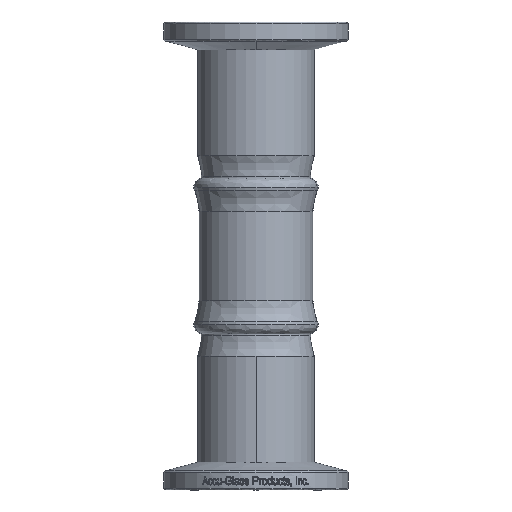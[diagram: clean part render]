
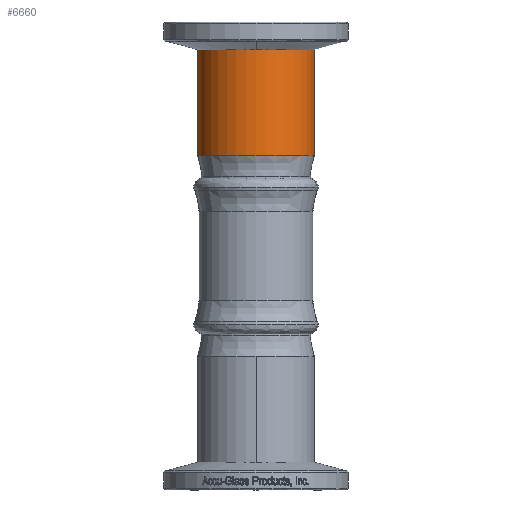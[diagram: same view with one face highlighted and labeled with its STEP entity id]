
A CAD part, front view. The second image highlights one B-rep face of the part: STEP entity #6660.
In plain terms, the highlighted cylindrical face has radius 9.525 mm (diameter 19.05 mm), a partial arc.
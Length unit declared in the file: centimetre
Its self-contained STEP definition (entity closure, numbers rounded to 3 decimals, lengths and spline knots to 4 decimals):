
#1824 = CIRCLE ( 'NONE', #14502, 0.9525 ) ;
#2332 = CARTESIAN_POINT ( 'NONE',  ( 0.9525, 0., -2.1793 ) ) ;
#2598 = CARTESIAN_POINT ( 'NONE',  ( 0., -0.9525, -0.4511 ) ) ;
#2642 = CARTESIAN_POINT ( 'NONE',  ( -0.9525, 0., -2.1793 ) ) ;
#3314 = EDGE_CURVE ( 'NONE', #11056, #42195, #38145, .T. ) ;
#3536 = EDGE_CURVE ( 'NONE', #42823, #11056, #45403, .T. ) ;
#3710 = EDGE_CURVE ( 'NONE', #9526, #42928, #45619, .T. ) ;
#5183 = CARTESIAN_POINT ( 'NONE',  ( 0., 0., -2.1793 ) ) ;
#5185 = DIRECTION ( 'NONE',  ( 0., 0., 1. ) ) ;
#5187 = DIRECTION ( 'NONE',  ( -1., 0., 0. ) ) ;
#6660 = ADVANCED_FACE ( 'NONE', ( #6992 ), #7007, .T. ) ;
#6992 = FACE_OUTER_BOUND ( 'NONE', #49945, .T. ) ;
#7007 = CYLINDRICAL_SURFACE ( 'NONE', #61217, 0.9525 ) ;
#9526 = VERTEX_POINT ( 'NONE', #28882 ) ;
#9541 = ORIENTED_EDGE ( 'NONE', *, *, #54141, .F. ) ;
#9629 = ORIENTED_EDGE ( 'NONE', *, *, #3536, .F. ) ;
#9955 = ORIENTED_EDGE ( 'NONE', *, *, #3710, .T. ) ;
#9967 = ORIENTED_EDGE ( 'NONE', *, *, #44783, .T. ) ;
#9985 = ORIENTED_EDGE ( 'NONE', *, *, #3314, .F. ) ;
#11056 = VERTEX_POINT ( 'NONE', #28985 ) ;
#14083 = AXIS2_PLACEMENT_3D ( 'NONE', #47571, #47572, #47574 ) ;
#14255 = AXIS2_PLACEMENT_3D ( 'NONE', #5183, #5185, #5187 ) ;
#14502 = AXIS2_PLACEMENT_3D ( 'NONE', #35552, #35553, #35554 ) ;
#15566 = DIRECTION ( 'NONE',  ( -1., 0., 0. ) ) ;
#15569 = DIRECTION ( 'NONE',  ( 0., 0., -1. ) ) ;
#15570 = CARTESIAN_POINT ( 'NONE',  ( 0., 0., -0.254 ) ) ;
#26339 = DIRECTION ( 'NONE',  ( 0., 0., -1. ) ) ;
#26562 = CARTESIAN_POINT ( 'NONE',  ( 0.9525, 0., -0.254 ) ) ;
#28882 = CARTESIAN_POINT ( 'NONE',  ( -0.9525, 0., -0.4511 ) ) ;
#28985 = CARTESIAN_POINT ( 'NONE',  ( 0.9525, 0., -0.4511 ) ) ;
#35552 = CARTESIAN_POINT ( 'NONE',  ( 0., 0., -0.4511 ) ) ;
#35553 = DIRECTION ( 'NONE',  ( 0., 0., 1. ) ) ;
#35554 = DIRECTION ( 'NONE',  ( 1., 0., 0. ) ) ;
#38139 = VECTOR ( 'NONE', #26339, 100. ) ;
#38145 = LINE ( 'NONE', #26562, #38139 ) ;
#42195 = VERTEX_POINT ( 'NONE', #2332 ) ;
#42823 = VERTEX_POINT ( 'NONE', #2598 ) ;
#42928 = VERTEX_POINT ( 'NONE', #2642 ) ;
#44783 = EDGE_CURVE ( 'NONE', #42928, #42195, #51855, .T. ) ;
#45403 = CIRCLE ( 'NONE', #14083, 0.9525 ) ;
#45437 = VECTOR ( 'NONE', #53587, 100. ) ;
#45619 = LINE ( 'NONE', #53582, #45437 ) ;
#47571 = CARTESIAN_POINT ( 'NONE',  ( 0., 0., -0.4511 ) ) ;
#47572 = DIRECTION ( 'NONE',  ( 0., 0., 1. ) ) ;
#47574 = DIRECTION ( 'NONE',  ( 1., 0., 0. ) ) ;
#49945 = EDGE_LOOP ( 'NONE', ( #9985, #9629, #9541, #9955, #9967 ) ) ;
#51855 = CIRCLE ( 'NONE', #14255, 0.9525 ) ;
#53582 = CARTESIAN_POINT ( 'NONE',  ( -0.9525, 0., -0.254 ) ) ;
#53587 = DIRECTION ( 'NONE',  ( 0., 0., -1. ) ) ;
#54141 = EDGE_CURVE ( 'NONE', #9526, #42823, #1824, .T. ) ;
#61217 = AXIS2_PLACEMENT_3D ( 'NONE', #15570, #15569, #15566 ) ;
